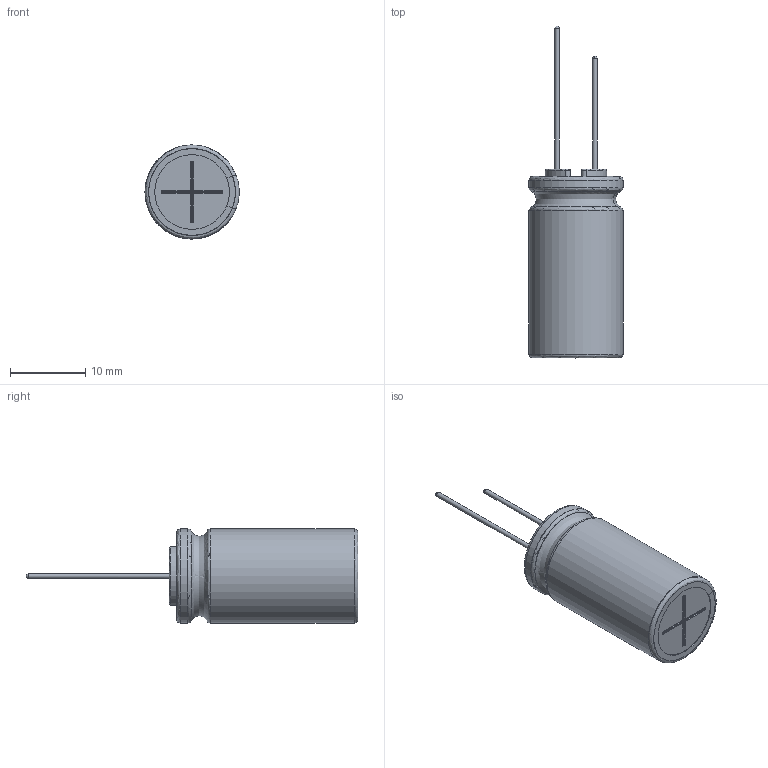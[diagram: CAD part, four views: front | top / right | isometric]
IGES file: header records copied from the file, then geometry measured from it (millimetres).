
Start section: JAMA-IS VERSION  1.0
Bounding box: 12.48 x 44 x 12.5 mm (x, y, z)
Surface area: 3347.9 mm2 (no closed solid volume)
Topology: 0 solids, 0 shells, 132 faces, 1445 edges, 1424 vertices
Faces by surface type: bspline 132
